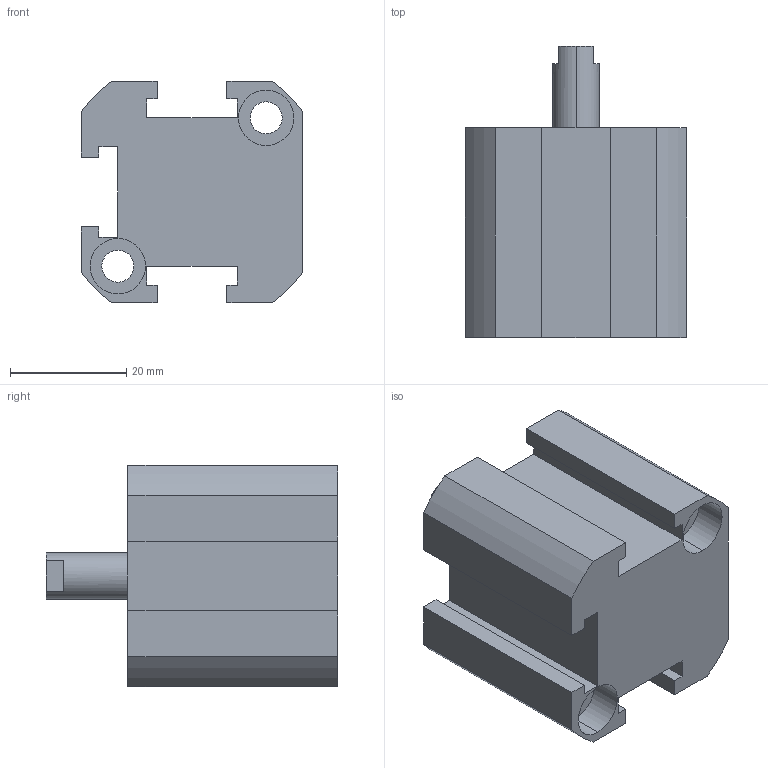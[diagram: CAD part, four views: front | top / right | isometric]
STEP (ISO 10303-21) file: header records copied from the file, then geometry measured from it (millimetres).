
FILE_DESCRIPTION (( 'STEP AP203' ), '1' );
FILE_NAME ('XC#0-20D-10.STEP', '2016-05-23T06:54:33', ( '' ), ( '' ), 'SwSTEP 2.0', 'SolidWorks 2014', '' );
FILE_SCHEMA (( 'CONFIG_CONTROL_DESIGN' ));
Length unit declared in the file: millimetre
Products named in the file (1): XC#0-20D-10
Bounding box: 38 x 50 x 38 mm (x, y, z)
Volume: 38117.9 mm3; surface area: 11685.5 mm2
Topology: 1 solids, 1 shells, 85 faces, 217 edges, 141 vertices
Faces by surface type: plane 44, cylinder 37, cone 4
Entity records: 2647 total; most frequent: DIRECTION 464, CARTESIAN_POINT 440, ORIENTED_EDGE 426, EDGE_CURVE 213, AXIS2_PLACEMENT_3D 165, VERTEX_POINT 141, VECTOR 134, LINE 134
